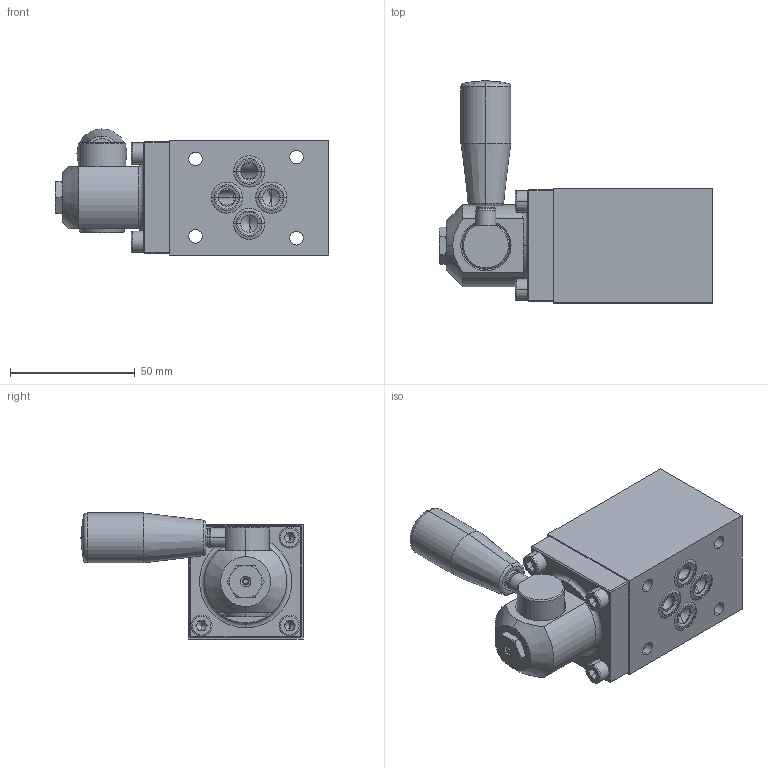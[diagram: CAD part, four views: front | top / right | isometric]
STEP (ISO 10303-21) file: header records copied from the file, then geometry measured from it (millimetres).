
FILE_DESCRIPTION (( 'STEP AP214' ), '1' );
FILE_NAME ('AG22061A.STEP', '2019-09-03T11:00:52', ( '' ), ( '' ), 'SwSTEP 2.0', 'SolidWorks 2018', '' );
FILE_SCHEMA (( 'AUTOMOTIVE_DESIGN' ));
Length unit declared in the file: millimetre
Products named in the file (1): AG22061A
Bounding box: 109.8 x 89 x 50.5 mm (x, y, z)
Volume: 189743.5 mm3; surface area: 34774 mm2
Topology: 6 solids, 46 shells, 647 faces, 1465 edges, 920 vertices
Faces by surface type: plane 234, cylinder 201, cone 89, bspline 70, torus 51, sphere 2
Entity records: 27206 total; most frequent: CARTESIAN_POINT 5973, DIRECTION 2920, ORIENTED_EDGE 2870, EDGE_CURVE 1435, AXIS2_PLACEMENT_3D 1181, VERTEX_POINT 920, EDGE_LOOP 713, UNCERTAINTY_MEASURE_WITH_UNIT 655
